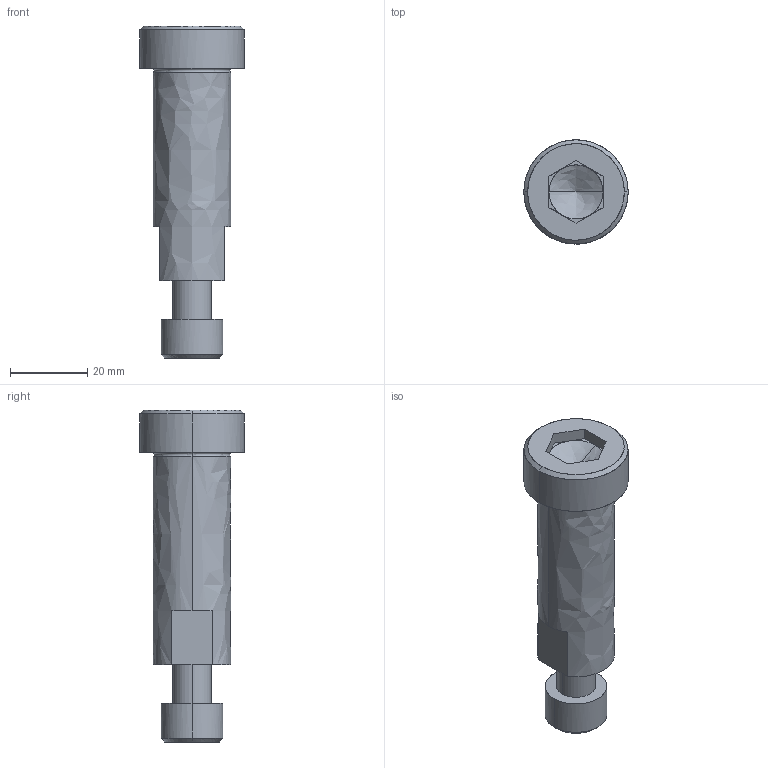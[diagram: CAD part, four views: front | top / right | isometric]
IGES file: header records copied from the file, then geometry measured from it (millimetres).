
Global section: file name: E:\UnigraphicsGraphicData\MISUMI_PRESS-PARTS\IGES\3d_sbt20-55_05078_r00.igs; native system: NX V5.0; preprocessor: UGS NX IGES V5.0; author: MISUMI; date: 20110105.162441; units: millimetre
Bounding box: 27 x 27 x 86 mm (x, y, z)
Surface area: 8264.8 mm2 (no closed solid volume)
Topology: 0 solids, 0 shells, 56 faces, 318 edges, 314 vertices
Faces by surface type: bspline 56
